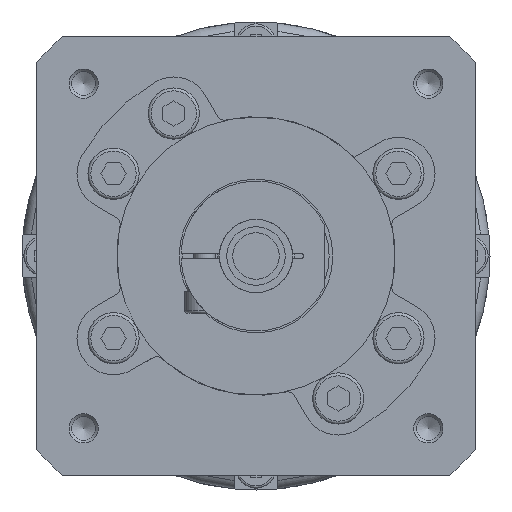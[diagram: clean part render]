
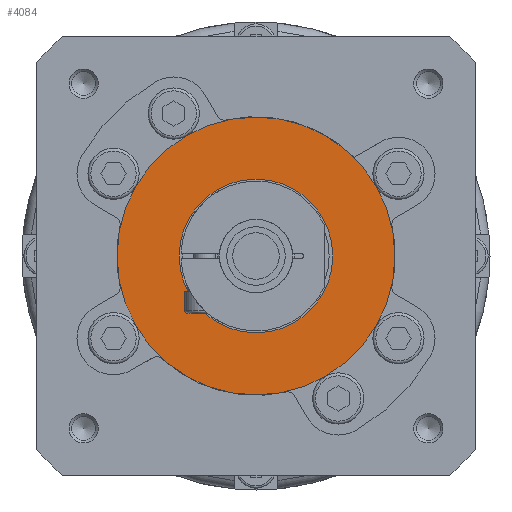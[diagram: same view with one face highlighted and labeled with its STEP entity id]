
A CAD part, left-side view. The second image highlights one B-rep face of the part: STEP entity #4084.
In plain terms, the highlighted planar face has unit normal (-1, 0, 0).
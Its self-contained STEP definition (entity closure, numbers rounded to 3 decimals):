
#3546=PLANE('',#8309);
#3781=FACE_BOUND('',#4684,.T.);
#3782=FACE_BOUND('',#4685,.T.);
#4084=ADVANCED_FACE('',(#3781,#3782),#3546,.T.);
#4684=EDGE_LOOP('',(#5461));
#4685=EDGE_LOOP('',(#5462));
#5193=CIRCLE('',#8306,10.5);
#5194=CIRCLE('',#8308,25.);
#5461=ORIENTED_EDGE('',*,*,#7511,.T.);
#5462=ORIENTED_EDGE('',*,*,#7510,.F.);
#6966=VERTEX_POINT('',#10817);
#6967=VERTEX_POINT('',#10820);
#7510=EDGE_CURVE('',#6966,#6966,#5193,.T.);
#7511=EDGE_CURVE('',#6967,#6967,#5194,.T.);
#8306=AXIS2_PLACEMENT_3D('',#10816,#8947,#8948);
#8308=AXIS2_PLACEMENT_3D('',#10819,#8951,#8952);
#8309=AXIS2_PLACEMENT_3D('',#10821,#8953,#8954);
#8947=DIRECTION('',(-1.,0.,0.));
#8948=DIRECTION('',(0.,1.,0.));
#8951=DIRECTION('',(-1.,0.,0.));
#8952=DIRECTION('',(0.,1.,0.));
#8953=DIRECTION('',(-1.,0.,0.));
#8954=DIRECTION('',(0.,-1.,0.));
#10816=CARTESIAN_POINT('',(-94.,0.,0.));
#10817=CARTESIAN_POINT('',(-94.,10.5,0.));
#10819=CARTESIAN_POINT('',(-94.,0.,0.));
#10820=CARTESIAN_POINT('',(-94.,25.,0.));
#10821=CARTESIAN_POINT('',(-94.,0.,-10.5));
